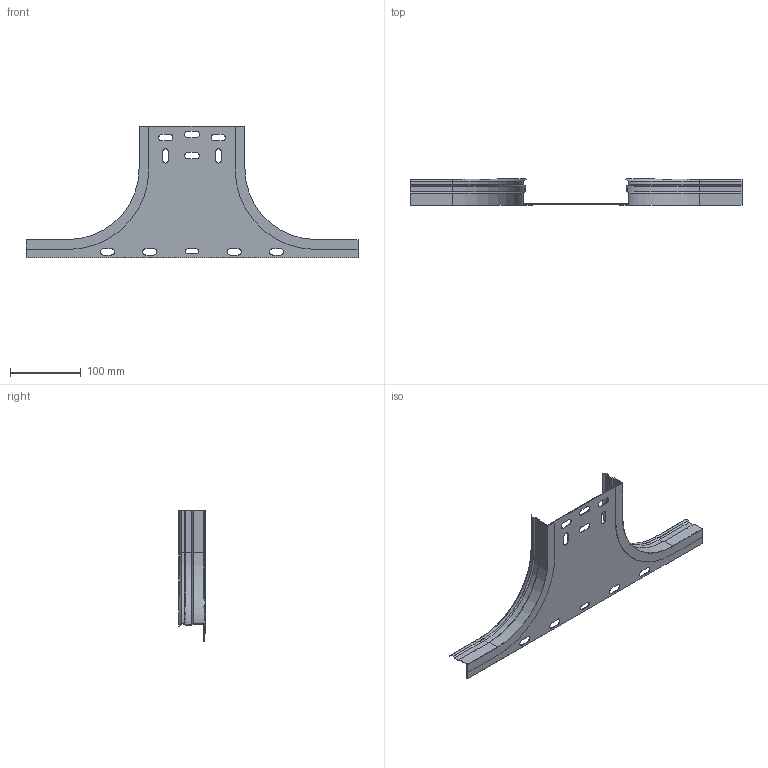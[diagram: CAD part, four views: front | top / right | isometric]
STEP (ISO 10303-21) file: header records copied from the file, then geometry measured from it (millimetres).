
FILE_DESCRIPTION (( 'STEP AP203' ), '1' );
FILE_NAME ('ERE_AS 150x35.step', '2023-07-27T18:49:54', ( '' ), ( '' ), 'SwSTEP 2.0', 'SolidWorks 2022', '' );
FILE_SCHEMA (( 'CONFIG_CONTROL_DESIGN' ));
Length unit declared in the file: millimetre
Products named in the file (3): ERE_LATERAL AS_35; ERE_BASE AS_150; ERE_AS 150x35
Assembly tree (3 placements, depth 2):
  ERE_AS 150x35
    ERE_BASE AS_150
    ERE_LATERAL AS_35  x2
Bounding box: 470 x 37 x 185.5 mm (x, y, z)
Volume: 59974.3 mm3; surface area: 137891.9 mm2
Topology: 3 solids, 3 shells, 150 faces, 384 edges, 240 vertices
Faces by surface type: plane 96, cylinder 40, cone 14
Entity records: 3577 total; most frequent: DIRECTION 564, CARTESIAN_POINT 562, ORIENTED_EDGE 552, EDGE_CURVE 276, LINE 208, VECTOR 208, AXIS2_PLACEMENT_3D 178, VERTEX_POINT 176
